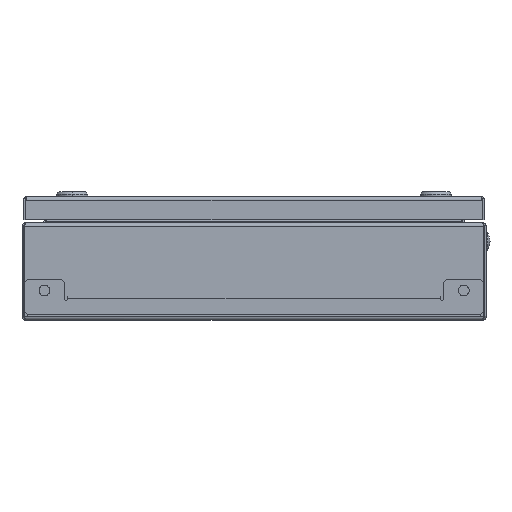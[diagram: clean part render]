
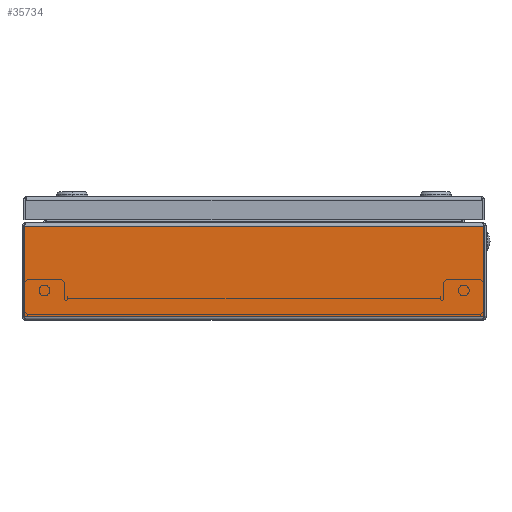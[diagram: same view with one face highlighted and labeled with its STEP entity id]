
A CAD part, left-side view. The second image highlights one B-rep face of the part: STEP entity #35734.
In plain terms, the highlighted planar face has unit normal (-1, 0, 0).
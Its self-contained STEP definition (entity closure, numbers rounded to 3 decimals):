
#235 = LINE ( 'NONE', #12889, #63520 ) ;
#4184 = EDGE_CURVE ( 'NONE', #49483, #63234, #60697, .T. ) ;
#4231 = DIRECTION ( 'NONE',  ( 0., 0., 1. ) ) ;
#6130 = ORIENTED_EDGE ( 'NONE', *, *, #34837, .F. ) ;
#11026 = CARTESIAN_POINT ( 'NONE',  ( -200., 148.6, 2.4 ) ) ;
#12889 = CARTESIAN_POINT ( 'NONE',  ( -200., -2150., 2.4 ) ) ;
#15514 = CARTESIAN_POINT ( 'NONE',  ( -200., -2150., 60.6 ) ) ;
#16075 = EDGE_CURVE ( 'NONE', #35073, #63234, #81689, .T. ) ;
#18831 = CARTESIAN_POINT ( 'NONE',  ( -200., -148.6, 2.4 ) ) ;
#19219 = CARTESIAN_POINT ( 'NONE',  ( -200., -2150., 60.6 ) ) ;
#21506 = ORIENTED_EDGE ( 'NONE', *, *, #4184, .T. ) ;
#25440 = VECTOR ( 'NONE', #39996, 1000. ) ;
#27569 = ORIENTED_EDGE ( 'NONE', *, *, #16075, .F. ) ;
#27682 = PLANE ( 'NONE',  #40690 ) ;
#31652 = VERTEX_POINT ( 'NONE', #33919 ) ;
#33919 = CARTESIAN_POINT ( 'NONE',  ( -200., -148.6, 2.4 ) ) ;
#34837 = EDGE_CURVE ( 'NONE', #31652, #35073, #235, .T. ) ;
#35073 = VERTEX_POINT ( 'NONE', #66332 ) ;
#35459 = EDGE_CURVE ( 'NONE', #31652, #49483, #88661, .T. ) ;
#35734 = ADVANCED_FACE ( 'NONE', ( #84437 ), #27682, .F. ) ;
#39996 = DIRECTION ( 'NONE',  ( 0., 1., 0. ) ) ;
#40690 = AXIS2_PLACEMENT_3D ( 'NONE', #15514, #63312, #69692 ) ;
#45125 = ORIENTED_EDGE ( 'NONE', *, *, #35459, .T. ) ;
#49483 = VERTEX_POINT ( 'NONE', #64556 ) ;
#50439 = VECTOR ( 'NONE', #4231, 1000. ) ;
#54336 = DIRECTION ( 'NONE',  ( 0., 1., 0. ) ) ;
#60697 = LINE ( 'NONE', #19219, #25440 ) ;
#63234 = VERTEX_POINT ( 'NONE', #88194 ) ;
#63312 = DIRECTION ( 'NONE',  ( 1., 0., 0. ) ) ;
#63520 = VECTOR ( 'NONE', #54336, 1000. ) ;
#64556 = CARTESIAN_POINT ( 'NONE',  ( -200., -148.6, 60.6 ) ) ;
#66332 = CARTESIAN_POINT ( 'NONE',  ( -200., 148.6, 2.4 ) ) ;
#69692 = DIRECTION ( 'NONE',  ( 0., 0., -1. ) ) ;
#80982 = DIRECTION ( 'NONE',  ( 0., 0., 1. ) ) ;
#81533 = EDGE_LOOP ( 'NONE', ( #45125, #21506, #27569, #6130 ) ) ;
#81689 = LINE ( 'NONE', #11026, #50439 ) ;
#84437 = FACE_OUTER_BOUND ( 'NONE', #81533, .T. ) ;
#88047 = VECTOR ( 'NONE', #80982, 1000. ) ;
#88194 = CARTESIAN_POINT ( 'NONE',  ( -200., 148.6, 60.6 ) ) ;
#88661 = LINE ( 'NONE', #18831, #88047 ) ;
